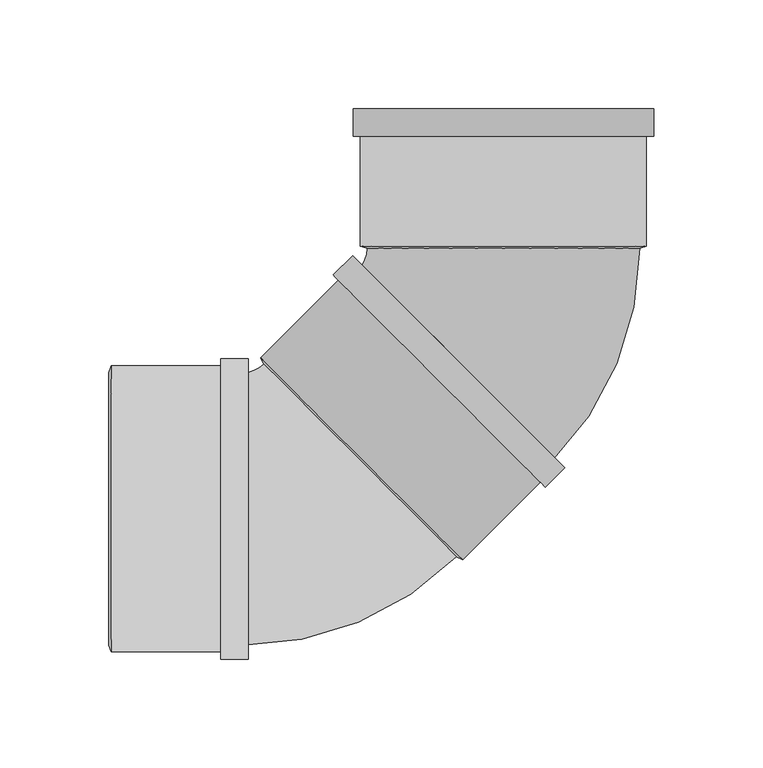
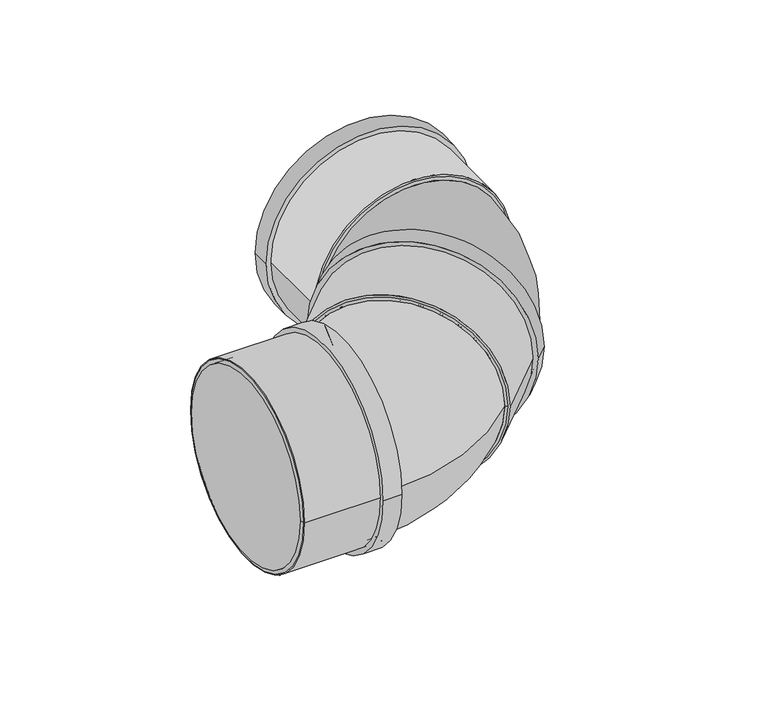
"""IFC4 building model written with IfcOpenShell, lengths in millimetres: pipe fitting geometry, Superdrain HT Bend Composite 2x45 : Superdrain HT Bend Composite 2x45."""

from ifc_helpers import new_model, si_unit, point, frame, origin, origin_2d, place, context, project, spatial, polyline, circle_curve, ellipse_curve, trimmed, segment, composite_curve, outline, extrude, source, transform, mapped, element, save
from ifc_brep_helpers import plane_surface, revolved_surface, advanced_brep


def pipe_fitting_a99f8c45(model_context):
    return source(origin(), model_context, "Body", "SolidModel", [
        advanced_brep(
        [(62.5, 119.5347943, 0.0), (-62.5, 119.5347943, 0.0), (21.9203102, 21.5667568, 0.0), (-66.4680374, 109.9551045, 0.0)],
        [
            (0, 1, circle_curve(frame((0.0, 119.5347943, 0.0), z_axis=(0.0, 1.0, 0.0), x_axis=(-1.0, 0.0, 0.0)), 62.5)),
            (1, 0, circle_curve(frame((0.0, 119.5347943, 0.0), z_axis=(0.0, 1.0, 0.0), x_axis=(-1.0, 0.0, 0.0)), 62.5)),
            (2, 3, circle_curve(frame((-22.2738636, 65.7609307, 0.0), z_axis=(-0.7071067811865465, -0.7071067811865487, 0.0), x_axis=(-0.7071067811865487, 0.7071067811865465, 0.0)), 62.5)),
            (3, 2, circle_curve(frame((-22.2738636, 65.7609307, 0.0), z_axis=(-0.7071067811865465, -0.7071067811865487, 0.0), x_axis=(-0.7071067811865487, 0.7071067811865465, 0.0)), 62.5)),
            (3, 1, circle_curve(frame((-76.0477272, 119.5347943, 0.0), z_axis=(0.0, 0.0, 1.0), x_axis=(0.707106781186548, 0.7071067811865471, 0.0)), 13.5477272)),
            (0, 2, circle_curve(frame((-76.0477272, 119.5347943, 0.0), z_axis=(0.0, 0.0, -1.0), x_axis=(0.707106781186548, 0.7071067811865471, 0.0)), 138.5477272)),
        ],
        [
            plane_surface(frame((0.0, 119.5347943, 0.0), z_axis=(0.0, 1.0, 0.0), x_axis=(0.0, 0.0, -1.0))),
            plane_surface(frame((-22.2738636, 65.7609307, 0.0), z_axis=(-0.7071067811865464, -0.7071067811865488, 0.0), x_axis=(0.0, 0.0, -1.0))),
            revolved_surface(trimmed(ellipse_curve(frame((-22.2738636, 173.3086579, 0.0), z_axis=(0.707106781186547, -0.7071067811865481, 0.0), x_axis=(-0.7071067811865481, -0.707106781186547, 0.0)), 62.5, 62.5), [point((-66.4680374, 129.114484, 0.0))], [point((21.9203102, 217.5028317, 0.0))], True, "CARTESIAN"), (-76.0477272, 119.5347943, 0.0), (0.0, 0.0, 1.0)),
            revolved_surface(trimmed(ellipse_curve(frame((-22.2738636, 173.3086579, 0.0), z_axis=(0.707106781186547, -0.7071067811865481, 0.0), x_axis=(-0.7071067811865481, -0.707106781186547, 0.0)), 62.5, 62.5), [point((21.9203102, 217.5028317, 0.0))], [point((-66.4680374, 129.114484, 0.0))], True, "CARTESIAN"), (-76.0477272, 119.5347943, 0.0), (0.0, 0.0, 1.0)),
        ],
        [
            (0, [[1, 2]]),
            (1, [[3, 4]]),
            (2, [[-4, 5, -1, 6]]),
            (3, [[-3, -6, -2, -5]]),
        ],
    ),
        extrude(outline(composite_curve([segment(trimmed(circle_curve(origin_2d(), 65.625), [point((0.0, 65.625))], [point((0.0, -65.625))], False, "CARTESIAN"), True, "CONTINUOUS"), segment(trimmed(circle_curve(origin_2d(), 65.625), [point((0.0, -65.625))], [point((0.0, 65.625))], False, "CARTESIAN"), True, "CONTINUOUS")], self_intersect=False), holes=[composite_curve([segment(trimmed(circle_curve(origin_2d(), 62.5), [point((0.0, 62.5))], [point((0.0, -62.5))], True, "CARTESIAN"), True, "CONTINUOUS"), segment(trimmed(circle_curve(origin_2d(), 62.5), [point((0.0, -62.5))], [point((0.0, 62.5))], True, "CARTESIAN"), True, "CONTINUOUS")], self_intersect=False)]), frame((0.0, 120.5347943, 0.0), z_axis=(0.0, 1.0, 0.0), x_axis=(0.0, 0.0, 1.0)), (0.0, 0.0, 1.0), 63.0),
        extrude(outline(composite_curve([segment(trimmed(circle_curve(origin_2d(), 68.90625), [point((0.0, -68.90625))], [point((0.0, 68.90625))], False, "CARTESIAN"), True, "CONTINUOUS"), segment(trimmed(circle_curve(origin_2d(), 68.90625), [point((0.0, 68.90625))], [point((0.0, -68.90625))], False, "CARTESIAN"), True, "CONTINUOUS")], self_intersect=False), holes=[composite_curve([segment(trimmed(circle_curve(origin_2d(), 62.5), [point((0.0, -62.5))], [point((0.0, 62.5))], True, "CARTESIAN"), True, "CONTINUOUS"), segment(trimmed(circle_curve(origin_2d(), 62.5), [point((0.0, 62.5))], [point((0.0, -62.5))], True, "CARTESIAN"), True, "CONTINUOUS")], self_intersect=False)]), frame((0.0, 170.9347943, 0.0), z_axis=(0.0, 1.0, 0.0), x_axis=(0.0, 0.0, 1.0)), (0.0, 0.0, 1.0), 12.6),
        advanced_brep(
        [(65.625, 120.5347943, 0.0), (-65.625, 120.5347943, 0.0), (62.5, 119.5347943, 0.0), (-62.5, 119.5347943, 0.0)],
        [
            (0, 1, circle_curve(frame((0.0, 120.5347943, 0.0), z_axis=(0.0, 1.0, 0.0), x_axis=(1.0, 0.0, 0.0)), 65.625)),
            (1, 0, circle_curve(frame((0.0, 120.5347943, 0.0), z_axis=(0.0, 1.0, 0.0), x_axis=(-1.0, 0.0, 0.0)), 65.625)),
            (2, 3, circle_curve(frame((0.0, 119.5347943, 0.0), z_axis=(0.0, -1.0, 0.0), x_axis=(-1.0, 0.0, 0.0)), 62.5)),
            (3, 2, circle_curve(frame((0.0, 119.5347943, 0.0), z_axis=(0.0, -1.0, 0.0), x_axis=(1.0, 0.0, 0.0)), 62.5)),
            (3, 1),
            (0, 2),
        ],
        [
            plane_surface(frame((0.0, 120.5347943, 0.0), z_axis=(0.0, 1.0, 0.0), x_axis=(0.0, 0.0, -1.0))),
            plane_surface(frame((0.0, 119.5347943, 0.0), z_axis=(0.0, -1.0, 0.0), x_axis=(0.0, 0.0, -1.0))),
            revolved_surface(polyline([(-62.5, 119.5347943, 0.0), (-65.625, 120.5347943, 0.0)]), (0.0, 99.5347943, 0.0), (0.0, 1.0, 0.0)),
            revolved_surface(polyline([(62.5, 119.5347943, 0.0), (65.625, 120.5347943, 0.0)]), (0.0, 99.5347943, 0.0), (0.0, 1.0, 0.0)),
        ],
        [
            (0, [[1, 2]]),
            (1, [[3, 4]]),
            (2, [[-4, 5, -1, 6]]),
            (3, [[-3, -6, -2, -5]]),
        ],
    ),
        extrude(outline(composite_curve([segment(trimmed(circle_curve(origin_2d(), 62.5), [point((0.0, -62.5))], [point((0.0, 62.5))], False, "CARTESIAN"), True, "CONTINUOUS"), segment(trimmed(circle_curve(origin_2d(), 62.5), [point((0.0, 62.5))], [point((0.0, -62.5))], False, "CARTESIAN"), True, "CONTINUOUS")], self_intersect=False)), frame((-65.0538239, 22.9809704, 0.0), z_axis=(0.707106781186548, 0.7071067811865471, 0.0), x_axis=(0.0, 0.0, -1.0)), (0.0, 0.0, 1.0), 60.5),
        extrude(outline(composite_curve([segment(trimmed(circle_curve(origin_2d(), 65.625), [point((65.625, 0.0))], [point((-65.625, 0.0))], False, "CARTESIAN"), True, "CONTINUOUS"), segment(trimmed(circle_curve(origin_2d(), 65.625), [point((-65.625, 0.0))], [point((65.625, 0.0))], False, "CARTESIAN"), True, "CONTINUOUS")], self_intersect=False), holes=[composite_curve([segment(trimmed(circle_curve(origin_2d(), 62.5), [point((62.5, 0.0))], [point((-62.5, 0.0))], True, "CARTESIAN"), True, "CONTINUOUS"), segment(trimmed(circle_curve(origin_2d(), 62.5), [point((-62.5, 0.0))], [point((62.5, 0.0))], True, "CARTESIAN"), True, "CONTINUOUS")], self_intersect=False)]), frame((-180.0347943, 0.0, 0.0), z_axis=(1.0, 0.0, 0.0), x_axis=(0.0, 1.0, 0.0)), (0.0, 0.0, 1.0), 63.0),
        extrude(outline(composite_curve([segment(trimmed(circle_curve(origin_2d(), 68.90625), [point((68.90625, 0.0))], [point((-68.90625, 0.0))], False, "CARTESIAN"), True, "CONTINUOUS"), segment(trimmed(circle_curve(origin_2d(), 68.90625), [point((-68.90625, 0.0))], [point((68.90625, 0.0))], False, "CARTESIAN"), True, "CONTINUOUS")], self_intersect=False), holes=[composite_curve([segment(trimmed(circle_curve(origin_2d(), 62.5), [point((62.5, 0.0))], [point((-62.5, 0.0))], True, "CARTESIAN"), True, "CONTINUOUS"), segment(trimmed(circle_curve(origin_2d(), 62.5), [point((-62.5, 0.0))], [point((62.5, 0.0))], True, "CARTESIAN"), True, "CONTINUOUS")], self_intersect=False)]), frame((-129.6347943, 0.0, 0.0), z_axis=(1.0, 0.0, 0.0), x_axis=(0.0, 1.0, 0.0)), (0.0, 0.0, 1.0), 12.6),
        advanced_brep(
        [(-181.0347943, 62.5, 0.0), (-181.0347943, -62.5, 0.0), (-180.0347943, 65.625, 0.0), (-180.0347943, -65.625, 0.0)],
        [
            (0, 1, circle_curve(frame((-181.0347943, 0.0, 0.0), z_axis=(-1.0, 0.0, 0.0), x_axis=(0.0, 1.0, 0.0)), 62.5)),
            (1, 0, circle_curve(frame((-181.0347943, 0.0, 0.0), z_axis=(-1.0, 0.0, 0.0), x_axis=(0.0, -1.0, 0.0)), 62.5)),
            (2, 3, circle_curve(frame((-180.0347943, 0.0, 0.0), z_axis=(1.0, 0.0, 0.0), x_axis=(0.0, -1.0, 0.0)), 65.625)),
            (3, 2, circle_curve(frame((-180.0347943, 0.0, 0.0), z_axis=(1.0, 0.0, 0.0), x_axis=(0.0, 1.0, 0.0)), 65.625)),
            (3, 1),
            (0, 2),
        ],
        [
            plane_surface(frame((-181.0347943, 0.0, 0.0), z_axis=(-1.0, 0.0, 0.0), x_axis=(0.0, 0.0, -1.0))),
            plane_surface(frame((-180.0347943, 0.0, 0.0), z_axis=(1.0, 0.0, 0.0), x_axis=(0.0, 0.0, -1.0))),
            revolved_surface(polyline([(-181.0347943, 62.5, 0.0), (-180.0347943, 65.625, 0.0)]), (-201.0347943, 0.0, 0.0), (1.0, 0.0, 0.0)),
            revolved_surface(polyline([(-181.0347943, -62.5, 0.0), (-180.0347943, -65.625, 0.0)]), (-201.0347943, 0.0, 0.0), (1.0, 0.0, 0.0)),
        ],
        [
            (0, [[1, 2]]),
            (1, [[3, 4]]),
            (2, [[-4, 5, -1, 6]]),
            (3, [[-3, -6, -2, -5]]),
        ],
    ),
        advanced_brep(
        [(-21.5667568, -21.9203102, 0.0), (-109.9551045, 66.4680374, 0.0), (-119.5347943, -62.5, 0.0), (-119.5347943, 62.5, 0.0)],
        [
            (0, 1, circle_curve(frame((-65.7609307, 22.2738636, 0.0), z_axis=(0.7071067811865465, 0.7071067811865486, 0.0), x_axis=(-0.7071067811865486, 0.7071067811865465, 0.0)), 62.5)),
            (1, 0, circle_curve(frame((-65.7609307, 22.2738636, 0.0), z_axis=(0.7071067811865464, 0.7071067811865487, 0.0), x_axis=(-0.7071067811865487, 0.7071067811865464, 0.0)), 62.5)),
            (2, 3, circle_curve(frame((-119.5347943, 0.0, 0.0), z_axis=(-1.0, 0.0, 0.0), x_axis=(0.0, 1.0, 0.0)), 62.5)),
            (3, 2, circle_curve(frame((-119.5347943, 0.0, 0.0), z_axis=(-1.0, 0.0, 0.0), x_axis=(0.0, 1.0, 0.0)), 62.5)),
            (3, 1, circle_curve(frame((-119.5347943, 76.0477272, 0.0), z_axis=(0.0, 0.0, 1.0), x_axis=(1.0, 0.0, 0.0)), 13.5477272)),
            (0, 2, circle_curve(frame((-119.5347943, 76.0477272, 0.0), z_axis=(0.0, 0.0, -1.0), x_axis=(1.0, 0.0, 0.0)), 138.5477272)),
        ],
        [
            plane_surface(frame((-65.7609307, 22.2738636, 0.0), z_axis=(0.7071067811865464, 0.7071067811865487, 0.0), x_axis=(0.0, 0.0, -1.0))),
            plane_surface(frame((-119.5347943, 0.0, 0.0), z_axis=(-1.0, 0.0, 0.0), x_axis=(0.0, 0.0, -1.0))),
            revolved_surface(trimmed(ellipse_curve(frame((-43.487067, 76.0477272, 0.0), z_axis=(0.0, -1.0, 0.0), x_axis=(-1.0, 0.0, 0.0)), 62.5, 62.5), [point((-105.987067, 76.0477272, 0.0))], [point((19.012933, 76.0477272, 0.0))], True, "CARTESIAN"), (-119.5347943, 76.0477272, 0.0), (0.0, 0.0, 1.0)),
            revolved_surface(trimmed(ellipse_curve(frame((-43.487067, 76.0477272, 0.0), z_axis=(0.0, -1.0, 0.0), x_axis=(-1.0, 0.0, 0.0)), 62.5, 62.5), [point((19.012933, 76.0477272, 0.0))], [point((-105.987067, 76.0477272, 0.0))], True, "CARTESIAN"), (-119.5347943, 76.0477272, 0.0), (0.0, 0.0, 1.0)),
        ],
        [
            (0, [[1, 2]]),
            (1, [[3, 4]]),
            (2, [[-4, 5, -1, 6]]),
            (3, [[-3, -6, -2, -5]]),
        ],
    ),
        extrude(outline(composite_curve([segment(trimmed(circle_curve(origin_2d(), 65.625), [point((0.0, 65.625))], [point((0.0, -65.625))], False, "CARTESIAN"), True, "CONTINUOUS"), segment(trimmed(circle_curve(origin_2d(), 65.625), [point((0.0, -65.625))], [point((0.0, 65.625))], False, "CARTESIAN"), True, "CONTINUOUS")], self_intersect=False), holes=[composite_curve([segment(trimmed(circle_curve(origin_2d(), 62.5), [point((0.0, 62.5))], [point((0.0, -62.5))], True, "CARTESIAN"), True, "CONTINUOUS"), segment(trimmed(circle_curve(origin_2d(), 62.5), [point((0.0, -62.5))], [point((0.0, 62.5))], True, "CARTESIAN"), True, "CONTINUOUS")], self_intersect=False)]), frame((-65.0538239, 22.9809704, 0.0), z_axis=(0.707106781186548, 0.707106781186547, 0.0), x_axis=(0.0, 0.0, 1.0)), (0.0, 0.0, 1.0), 63.0),
        extrude(outline(composite_curve([segment(trimmed(circle_curve(origin_2d(), 68.90625), [point((0.0, -68.9062499))], [point((0.0, 68.90625))], False, "CARTESIAN"), True, "CONTINUOUS"), segment(trimmed(circle_curve(origin_2d(), 68.90625), [point((0.0, 68.90625))], [point((0.0, -68.9062499))], False, "CARTESIAN"), True, "CONTINUOUS")], self_intersect=False), holes=[composite_curve([segment(trimmed(circle_curve(origin_2d(), 62.5), [point((0.0, -62.5))], [point((0.0, 62.5))], True, "CARTESIAN"), True, "CONTINUOUS"), segment(trimmed(circle_curve(origin_2d(), 62.5), [point((0.0, 62.5))], [point((0.0, -62.5))], True, "CARTESIAN"), True, "CONTINUOUS")], self_intersect=False)]), frame((-29.4156421, 58.6191522, 0.0), z_axis=(0.7071067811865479, 0.7071067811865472, 0.0), x_axis=(0.0, 0.0, 1.0)), (0.0, 0.0, 1.0), 12.6),
        advanced_brep(
        [(-18.6499414, -23.4229121, 0.0), (-111.4577064, 69.3848529, 0.0), (-21.5667568, -21.9203102, 0.0), (-109.9551045, 66.4680374, 0.0)],
        [
            (0, 1, circle_curve(frame((-65.0538239, 22.9809704, 0.0), z_axis=(0.7071067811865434, 0.7071067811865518, 0.0), x_axis=(0.7071067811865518, -0.7071067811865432, 0.0)), 65.625)),
            (1, 0, circle_curve(frame((-65.0538239, 22.9809704, 0.0), z_axis=(0.7071067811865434, 0.7071067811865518, 0.0), x_axis=(-0.7071067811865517, 0.7071067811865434, 0.0)), 65.625)),
            (2, 3, circle_curve(frame((-65.7609307, 22.2738636, 0.0), z_axis=(-0.7071067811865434, -0.7071067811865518, 0.0), x_axis=(-0.7071067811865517, 0.7071067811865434, 0.0)), 62.5)),
            (3, 2, circle_curve(frame((-65.7609307, 22.2738636, 0.0), z_axis=(-0.7071067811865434, -0.7071067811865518, 0.0), x_axis=(0.7071067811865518, -0.7071067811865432, 0.0)), 62.5)),
            (3, 1),
            (0, 2),
        ],
        [
            plane_surface(frame((-65.0538239, 22.9809704, 0.0), z_axis=(0.7071067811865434, 0.7071067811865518, 0.0), x_axis=(0.0, 0.0, -1.0))),
            plane_surface(frame((-65.7609307, 22.2738636, 0.0), z_axis=(-0.7071067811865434, -0.7071067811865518, 0.0), x_axis=(0.0, 0.0, -1.0))),
            revolved_surface(polyline([(-109.95510444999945, 66.46803734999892, 0.0), (-111.4577064, 69.3848529, 0.0)]), (-79.9030663, 8.131728, 0.0), (0.7071067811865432, 0.7071067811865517, 0.0)),
            revolved_surface(polyline([(-21.566756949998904, -21.920310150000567, 0.0), (-18.649941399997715, -23.422912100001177, 0.0)]), (-79.9030663, 8.131728, 0.0), (0.7071067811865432, 0.7071067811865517, 0.0)),
        ],
        [
            (0, [[1, 2]]),
            (1, [[3, 4]]),
            (2, [[-4, 5, -1, 6]]),
            (3, [[-3, -6, -2, -5]]),
        ],
    ),
        extrude(outline(composite_curve([segment(trimmed(circle_curve(origin_2d(), 62.5), [point((-62.5, 0.0))], [point((62.5, 0.0))], False, "CARTESIAN"), True, "CONTINUOUS"), segment(trimmed(circle_curve(origin_2d(), 62.5), [point((62.5, 0.0))], [point((-62.5, 0.0))], False, "CARTESIAN"), True, "CONTINUOUS")], self_intersect=False)), frame((-180.0347943, 0.0, 0.0), z_axis=(1.0, 0.0, 0.0), x_axis=(0.0, 1.0, 0.0)), (0.0, 0.0, 1.0), 60.5),
    ])


if __name__ == "__main__":
    model = new_model("IFC4")
    model_context = context("Model", 3, world=origin())
    ifc_project = project(units=[si_unit("LENGTHUNIT", "METRE", prefix="MILLI")], contexts=[model_context])
    site = spatial("IfcSite", under=ifc_project)
    building = spatial("IfcBuilding", under=site)
    placement = place(None, origin())
    pipe_fitting_shape = pipe_fitting_a99f8c45(model_context)
    element("IfcPipeFitting", 1, ObjectType="Superdrain HT Bend Composite 2x45 : Superdrain HT Bend Composite 2x45", at=placement, inside=building, context=model_context, shape_type="MappedRepresentation", body=[
        mapped(pipe_fitting_shape, transform((0.0, 0.0, 0.0), x_axis=(1.0, 0.0, 0.0), y_axis=(0.0, 1.0, 0.0), z_axis=(0.0, 0.0, 1.0))),
    ])
    save(model, "model.ifc")
